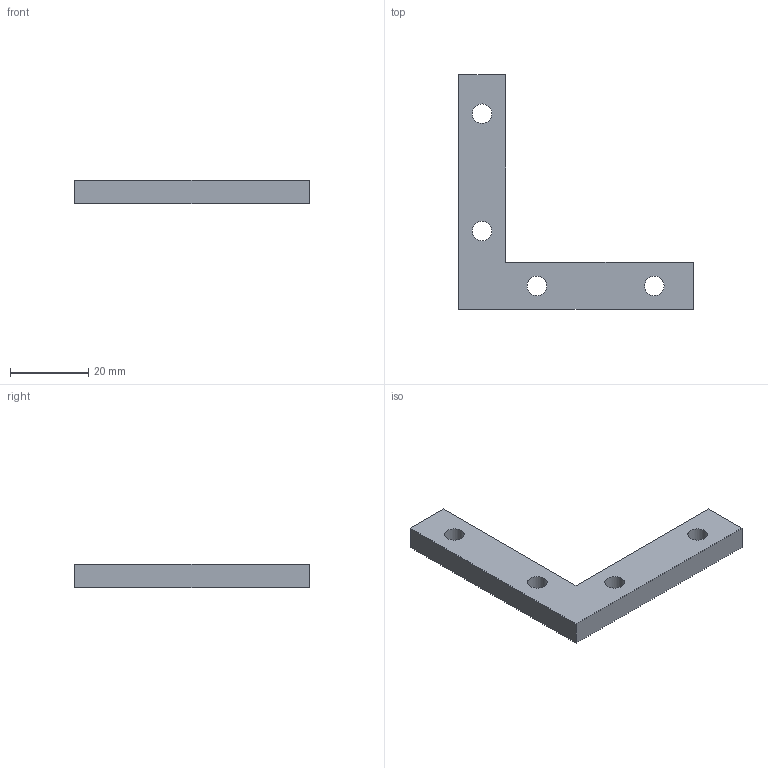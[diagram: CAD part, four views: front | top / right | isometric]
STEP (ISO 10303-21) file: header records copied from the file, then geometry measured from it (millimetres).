
FILE_DESCRIPTION(/* description */ (''),/* implementation_level */ '2;1');
FILE_NAME(/* name */ 'Pos161-1016 Connector 90 M6-Aluminium-niet behandelen-6st',/* time_stamp */ '2024-08-06T11:49:45+02:00',/* author */ (''),/* organization */ (''),/* preprocessor_version */ 'ST-DEVELOPER v16.5',/* originating_system */ 'HiCAD 2024 2901.2 Build 361',/* authorisation */ '');
FILE_SCHEMA (('AUTOMOTIVE_DESIGN { 1 0 10303 214 1 1 1 1 }'));
Length unit declared in the file: millimetre
Products named in the file (1): Pos161-1016 Connector 90 M6-Aluminium-niet behandelen-6st
Bounding box: 60 x 60 x 6 mm (x, y, z)
Volume: 7304.8 mm3; surface area: 4251.9 mm2
Topology: 1 solids, 1 shells, 12 faces, 34 edges, 24 vertices
Faces by surface type: plane 8, cylinder 4
Full cylindrical faces by diameter (mm): 5 x4
Entity records: 636 total; most frequent: DIRECTION 58, CARTESIAN_POINT 58, PRESENTATION_STYLE_ASSIGNMENT 53, COLOUR_RGB 53, DRAUGHTING_PRE_DEFINED_CURVE_FONT 52, CURVE_STYLE 52, OVER_RIDING_STYLED_ITEM 52, ORIENTED_EDGE 52
